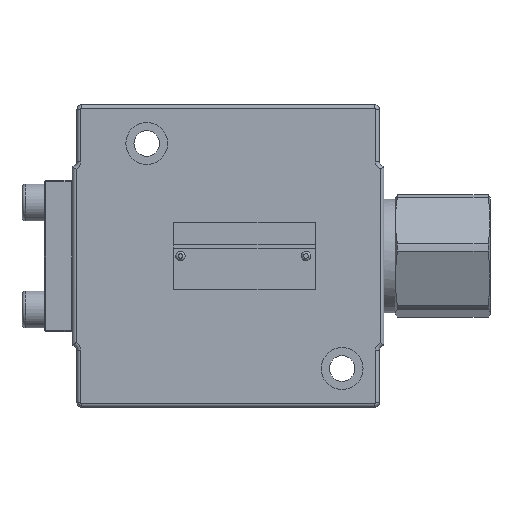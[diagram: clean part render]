
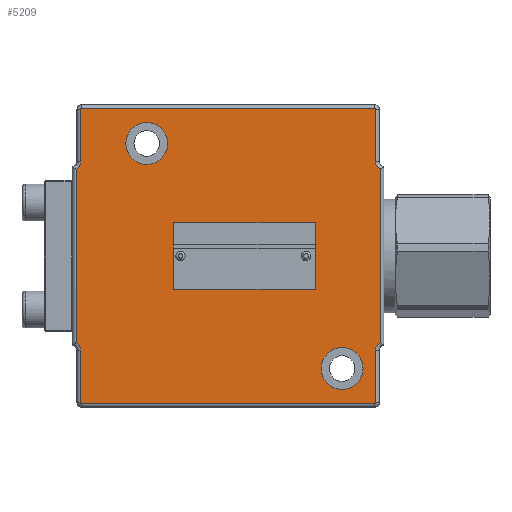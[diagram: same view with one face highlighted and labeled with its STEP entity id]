
A CAD part, front view. The second image highlights one B-rep face of the part: STEP entity #5209.
In plain terms, the highlighted planar face has unit normal (0, -1, 0).
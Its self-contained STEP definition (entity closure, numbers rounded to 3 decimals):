
#2425=FACE_BOUND('',#6430,.T.);
#2426=FACE_BOUND('',#6431,.T.);
#2427=FACE_BOUND('',#6432,.T.);
#2428=FACE_BOUND('',#6433,.T.);
#2429=FACE_BOUND('',#6434,.T.);
#2664=PLANE('',#13259);
#3240=LINE('',#31097,#4225);
#3241=LINE('',#31101,#4226);
#3242=LINE('',#31105,#4227);
#3243=LINE('',#31109,#4228);
#3244=LINE('',#31113,#4229);
#3245=LINE('',#31117,#4230);
#3246=LINE('',#31121,#4231);
#3247=LINE('',#31125,#4232);
#4225=VECTOR('',#14432,1.);
#4226=VECTOR('',#14435,1.);
#4227=VECTOR('',#14438,1.);
#4228=VECTOR('',#14441,1.);
#4229=VECTOR('',#14444,1.);
#4230=VECTOR('',#14447,1.);
#4231=VECTOR('',#14450,1.);
#4232=VECTOR('',#14453,1.);
#5209=ADVANCED_FACE('',(#2425,#2426,#2427,#2428,#2429),#2664,.F.);
#6430=EDGE_LOOP('',(#7822,#7823,#7824,#7825,#7826,#7827,#7828,#7829,#7830,
#7831,#7832,#7833,#7834,#7835,#7836,#7837));
#6431=EDGE_LOOP('',(#7838));
#6432=EDGE_LOOP('',(#7839));
#6433=EDGE_LOOP('',(#7840));
#6434=EDGE_LOOP('',(#7841));
#7822=ORIENTED_EDGE('',*,*,#11600,.T.);
#7823=ORIENTED_EDGE('',*,*,#11601,.T.);
#7824=ORIENTED_EDGE('',*,*,#11602,.T.);
#7825=ORIENTED_EDGE('',*,*,#11603,.T.);
#7826=ORIENTED_EDGE('',*,*,#11604,.T.);
#7827=ORIENTED_EDGE('',*,*,#11605,.T.);
#7828=ORIENTED_EDGE('',*,*,#11606,.T.);
#7829=ORIENTED_EDGE('',*,*,#11607,.T.);
#7830=ORIENTED_EDGE('',*,*,#11608,.T.);
#7831=ORIENTED_EDGE('',*,*,#11609,.T.);
#7832=ORIENTED_EDGE('',*,*,#11610,.T.);
#7833=ORIENTED_EDGE('',*,*,#11611,.T.);
#7834=ORIENTED_EDGE('',*,*,#11612,.T.);
#7835=ORIENTED_EDGE('',*,*,#11613,.T.);
#7836=ORIENTED_EDGE('',*,*,#11614,.T.);
#7837=ORIENTED_EDGE('',*,*,#11615,.T.);
#7838=ORIENTED_EDGE('',*,*,#11616,.T.);
#7839=ORIENTED_EDGE('',*,*,#11617,.T.);
#7840=ORIENTED_EDGE('',*,*,#11618,.F.);
#7841=ORIENTED_EDGE('',*,*,#11619,.T.);
#10499=VERTEX_POINT('',#31095);
#10500=VERTEX_POINT('',#31096);
#10501=VERTEX_POINT('',#31098);
#10502=VERTEX_POINT('',#31100);
#10503=VERTEX_POINT('',#31102);
#10504=VERTEX_POINT('',#31104);
#10505=VERTEX_POINT('',#31106);
#10506=VERTEX_POINT('',#31108);
#10507=VERTEX_POINT('',#31110);
#10508=VERTEX_POINT('',#31112);
#10509=VERTEX_POINT('',#31114);
#10510=VERTEX_POINT('',#31116);
#10511=VERTEX_POINT('',#31118);
#10512=VERTEX_POINT('',#31120);
#10513=VERTEX_POINT('',#31122);
#10514=VERTEX_POINT('',#31124);
#10515=VERTEX_POINT('',#31127);
#10516=VERTEX_POINT('',#31129);
#10517=VERTEX_POINT('',#31131);
#10518=VERTEX_POINT('',#31133);
#11600=EDGE_CURVE('',#10499,#10500,#12890,.T.);
#11601=EDGE_CURVE('',#10500,#10501,#3240,.T.);
#11602=EDGE_CURVE('',#10501,#10502,#12891,.T.);
#11603=EDGE_CURVE('',#10502,#10503,#3241,.T.);
#11604=EDGE_CURVE('',#10503,#10504,#12892,.T.);
#11605=EDGE_CURVE('',#10504,#10505,#3242,.T.);
#11606=EDGE_CURVE('',#10505,#10506,#12893,.T.);
#11607=EDGE_CURVE('',#10506,#10507,#3243,.T.);
#11608=EDGE_CURVE('',#10507,#10508,#12894,.T.);
#11609=EDGE_CURVE('',#10508,#10509,#3244,.T.);
#11610=EDGE_CURVE('',#10509,#10510,#12895,.T.);
#11611=EDGE_CURVE('',#10510,#10511,#3245,.T.);
#11612=EDGE_CURVE('',#10511,#10512,#12896,.T.);
#11613=EDGE_CURVE('',#10512,#10513,#3246,.T.);
#11614=EDGE_CURVE('',#10513,#10514,#12897,.T.);
#11615=EDGE_CURVE('',#10514,#10499,#3247,.T.);
#11616=EDGE_CURVE('',#10515,#10515,#12898,.T.);
#11617=EDGE_CURVE('',#10516,#10516,#12899,.T.);
#11618=EDGE_CURVE('',#10517,#10517,#12900,.T.);
#11619=EDGE_CURVE('',#10518,#10518,#12901,.T.);
#12890=CIRCLE('',#13247,0.4);
#12891=CIRCLE('',#13248,0.4);
#12892=CIRCLE('',#13249,3.6);
#12893=CIRCLE('',#13250,3.6);
#12894=CIRCLE('',#13251,0.4);
#12895=CIRCLE('',#13252,0.4);
#12896=CIRCLE('',#13253,3.6);
#12897=CIRCLE('',#13254,3.6);
#12898=CIRCLE('',#13255,0.9);
#12899=CIRCLE('',#13256,0.9);
#12900=CIRCLE('',#13257,9.);
#12901=CIRCLE('',#13258,9.);
#13247=AXIS2_PLACEMENT_3D('',#31094,#14430,#14431);
#13248=AXIS2_PLACEMENT_3D('',#31099,#14433,#14434);
#13249=AXIS2_PLACEMENT_3D('',#31103,#14436,#14437);
#13250=AXIS2_PLACEMENT_3D('',#31107,#14439,#14440);
#13251=AXIS2_PLACEMENT_3D('',#31111,#14442,#14443);
#13252=AXIS2_PLACEMENT_3D('',#31115,#14445,#14446);
#13253=AXIS2_PLACEMENT_3D('',#31119,#14448,#14449);
#13254=AXIS2_PLACEMENT_3D('',#31123,#14451,#14452);
#13255=AXIS2_PLACEMENT_3D('',#31126,#14454,#14455);
#13256=AXIS2_PLACEMENT_3D('',#31128,#14456,#14457);
#13257=AXIS2_PLACEMENT_3D('',#31130,#14458,#14459);
#13258=AXIS2_PLACEMENT_3D('',#31132,#14460,#14461);
#13259=AXIS2_PLACEMENT_3D('',#31134,#14462,#14463);
#14430=DIRECTION('',(0.,-1.,0.));
#14431=DIRECTION('',(0.,0.,1.));
#14432=DIRECTION('',(-1.,0.,0.));
#14433=DIRECTION('',(0.,-1.,0.));
#14434=DIRECTION('',(0.,0.,1.));
#14435=DIRECTION('',(0.,0.,-1.));
#14436=DIRECTION('',(0.,1.,0.));
#14437=DIRECTION('',(0.,0.,1.));
#14438=DIRECTION('',(0.,0.,-1.));
#14439=DIRECTION('',(0.,1.,0.));
#14440=DIRECTION('',(0.,0.,1.));
#14441=DIRECTION('',(0.,0.,-1.));
#14442=DIRECTION('',(0.,-1.,0.));
#14443=DIRECTION('',(0.,0.,1.));
#14444=DIRECTION('',(1.,0.,0.));
#14445=DIRECTION('',(0.,-1.,0.));
#14446=DIRECTION('',(0.,0.,1.));
#14447=DIRECTION('',(0.,0.,1.));
#14448=DIRECTION('',(0.,1.,0.));
#14449=DIRECTION('',(0.,0.,1.));
#14450=DIRECTION('',(0.,0.,1.));
#14451=DIRECTION('',(0.,1.,0.));
#14452=DIRECTION('',(0.,0.,1.));
#14453=DIRECTION('',(0.,0.,1.));
#14454=DIRECTION('',(0.,1.,0.));
#14455=DIRECTION('',(0.,0.,1.));
#14456=DIRECTION('',(0.,1.,0.));
#14457=DIRECTION('',(0.,0.,1.));
#14458=DIRECTION('',(0.,-1.,0.));
#14459=DIRECTION('',(1.,0.,0.));
#14460=DIRECTION('',(0.,1.,0.));
#14461=DIRECTION('',(1.,0.,0.));
#14462=DIRECTION('',(0.,1.,0.));
#14463=DIRECTION('',(1.,0.,0.));
#31094=CARTESIAN_POINT('',(766.938,246.116,63.));
#31095=CARTESIAN_POINT('',(767.338,246.116,63.));
#31096=CARTESIAN_POINT('',(766.938,246.116,63.4));
#31097=CARTESIAN_POINT('',(640.938,246.116,63.4));
#31098=CARTESIAN_POINT('',(640.938,246.116,63.4));
#31099=CARTESIAN_POINT('',(640.938,246.116,63.));
#31100=CARTESIAN_POINT('',(640.538,246.116,63.));
#31101=CARTESIAN_POINT('',(640.538,246.116,40.5));
#31102=CARTESIAN_POINT('',(640.538,246.116,40.5));
#31103=CARTESIAN_POINT('',(636.938,246.116,40.5));
#31104=CARTESIAN_POINT('',(638.538,246.116,37.275));
#31105=CARTESIAN_POINT('',(638.538,246.116,-38.5));
#31106=CARTESIAN_POINT('',(638.538,246.116,-37.275));
#31107=CARTESIAN_POINT('',(636.938,246.116,-40.5));
#31108=CARTESIAN_POINT('',(640.538,246.116,-40.5));
#31109=CARTESIAN_POINT('',(640.538,246.116,-63.));
#31110=CARTESIAN_POINT('',(640.538,246.116,-63.));
#31111=CARTESIAN_POINT('',(640.938,246.116,-63.));
#31112=CARTESIAN_POINT('',(640.938,246.116,-63.4));
#31113=CARTESIAN_POINT('',(766.938,246.116,-63.4));
#31114=CARTESIAN_POINT('',(766.938,246.116,-63.4));
#31115=CARTESIAN_POINT('',(766.938,246.116,-63.));
#31116=CARTESIAN_POINT('',(767.338,246.116,-63.));
#31117=CARTESIAN_POINT('',(767.338,246.116,-40.5));
#31118=CARTESIAN_POINT('',(767.338,246.116,-40.5));
#31119=CARTESIAN_POINT('',(770.938,246.116,-40.5));
#31120=CARTESIAN_POINT('',(769.338,246.116,-37.275));
#31121=CARTESIAN_POINT('',(769.338,246.116,38.5));
#31122=CARTESIAN_POINT('',(769.338,246.116,37.275));
#31123=CARTESIAN_POINT('',(770.938,246.116,40.5));
#31124=CARTESIAN_POINT('',(767.338,246.116,40.5));
#31125=CARTESIAN_POINT('',(767.338,246.116,63.));
#31126=CARTESIAN_POINT('',(737.439,246.116,0.));
#31127=CARTESIAN_POINT('',(737.439,246.116,0.9));
#31128=CARTESIAN_POINT('',(683.439,246.116,0.));
#31129=CARTESIAN_POINT('',(683.439,246.116,0.9));
#31130=CARTESIAN_POINT('',(752.939,246.116,-48.4));
#31131=CARTESIAN_POINT('',(761.939,246.116,-48.4));
#31132=CARTESIAN_POINT('',(668.938,246.116,48.4));
#31133=CARTESIAN_POINT('',(677.938,246.116,48.4));
#31134=CARTESIAN_POINT('',(766.938,246.116,63.));
